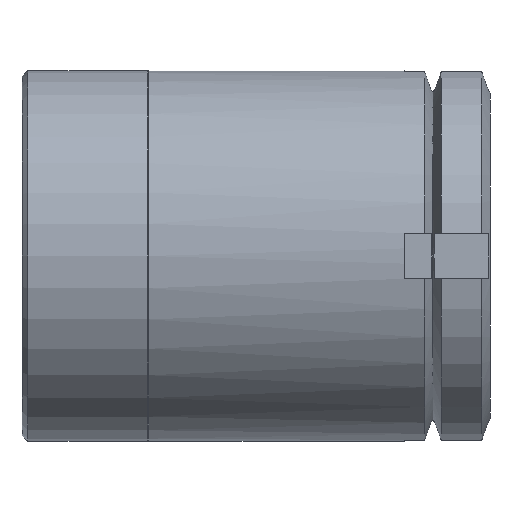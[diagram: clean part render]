
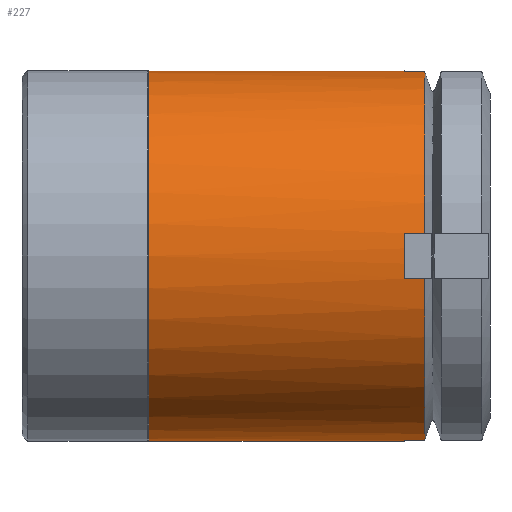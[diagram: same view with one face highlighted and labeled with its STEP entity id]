
A CAD part, front view. The second image highlights one B-rep face of the part: STEP entity #227.
In plain terms, the highlighted cylindrical face has radius 32.5 mm (diameter 65 mm), a full revolution.
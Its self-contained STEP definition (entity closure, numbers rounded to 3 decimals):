
#227 = ADVANCED_FACE( '', ( #342, #343 ), #344, .T. );
#342 = FACE_OUTER_BOUND( '', #527, .T. );
#343 = FACE_OUTER_BOUND( '', #528, .T. );
#344 = CYLINDRICAL_SURFACE( '', #529, 32.5 );
#527 = EDGE_LOOP( '', ( #756 ) );
#528 = EDGE_LOOP( '', ( #757, #758, #759, #760, #761, #762, #763, #764, #765, #766, #767, #768, #769, #770, #771, #772 ) );
#529 = AXIS2_PLACEMENT_3D( '', #773, #774, #775 );
#756 = ORIENTED_EDGE( '', *, *, #1157, .F. );
#757 = ORIENTED_EDGE( '', *, *, #1158, .F. );
#758 = ORIENTED_EDGE( '', *, *, #1159, .T. );
#759 = ORIENTED_EDGE( '', *, *, #1160, .T. );
#760 = ORIENTED_EDGE( '', *, *, #1161, .F. );
#761 = ORIENTED_EDGE( '', *, *, #1162, .F. );
#762 = ORIENTED_EDGE( '', *, *, #1163, .T. );
#763 = ORIENTED_EDGE( '', *, *, #1164, .T. );
#764 = ORIENTED_EDGE( '', *, *, #1165, .F. );
#765 = ORIENTED_EDGE( '', *, *, #1166, .F. );
#766 = ORIENTED_EDGE( '', *, *, #1143, .T. );
#767 = ORIENTED_EDGE( '', *, *, #1167, .T. );
#768 = ORIENTED_EDGE( '', *, *, #1168, .F. );
#769 = ORIENTED_EDGE( '', *, *, #1169, .F. );
#770 = ORIENTED_EDGE( '', *, *, #1170, .T. );
#771 = ORIENTED_EDGE( '', *, *, #1171, .T. );
#772 = ORIENTED_EDGE( '', *, *, #1172, .F. );
#773 = CARTESIAN_POINT( '', ( 0., 9.939, 0. ) );
#774 = DIRECTION( '', ( 0., 1., 0. ) );
#775 = DIRECTION( '', ( 0., 0., -1. ) );
#1143 = EDGE_CURVE( '', #1288, #1286, #1289, .T. );
#1157 = EDGE_CURVE( '', #1315, #1315, #1316, .T. );
#1158 = EDGE_CURVE( '', #1317, #1318, #1319, .T. );
#1159 = EDGE_CURVE( '', #1317, #1320, #1321, .T. );
#1160 = EDGE_CURVE( '', #1320, #1322, #1323, .T. );
#1161 = EDGE_CURVE( '', #1324, #1322, #1325, .T. );
#1162 = EDGE_CURVE( '', #1326, #1324, #1327, .T. );
#1163 = EDGE_CURVE( '', #1326, #1328, #1329, .T. );
#1164 = EDGE_CURVE( '', #1328, #1330, #1331, .T. );
#1165 = EDGE_CURVE( '', #1332, #1330, #1333, .T. );
#1166 = EDGE_CURVE( '', #1288, #1332, #1334, .T. );
#1167 = EDGE_CURVE( '', #1286, #1335, #1336, .T. );
#1168 = EDGE_CURVE( '', #1337, #1335, #1338, .T. );
#1169 = EDGE_CURVE( '', #1339, #1337, #1340, .T. );
#1170 = EDGE_CURVE( '', #1339, #1341, #1342, .T. );
#1171 = EDGE_CURVE( '', #1341, #1343, #1344, .T. );
#1172 = EDGE_CURVE( '', #1318, #1343, #1345, .T. );
#1286 = VERTEX_POINT( '', #1522 );
#1288 = VERTEX_POINT( '', #1530 );
#1289 = LINE( '', #1531, #1532 );
#1315 = VERTEX_POINT( '', #1560 );
#1316 = CIRCLE( '', #1561, 32.5 );
#1317 = VERTEX_POINT( '', #1562 );
#1318 = VERTEX_POINT( '', #1563 );
#1319 = CIRCLE( '', #1564, 32.5 );
#1320 = VERTEX_POINT( '', #1565 );
#1321 = LINE( '', #1566, #1567 );
#1322 = VERTEX_POINT( '', #1568 );
#1323 = CIRCLE( '', #1569, 32.5 );
#1324 = VERTEX_POINT( '', #1570 );
#1325 = LINE( '', #1571, #1572 );
#1326 = VERTEX_POINT( '', #1573 );
#1327 = CIRCLE( '', #1574, 32.5 );
#1328 = VERTEX_POINT( '', #1575 );
#1329 = LINE( '', #1576, #1577 );
#1330 = VERTEX_POINT( '', #1578 );
#1331 = CIRCLE( '', #1579, 32.5 );
#1332 = VERTEX_POINT( '', #1580 );
#1333 = LINE( '', #1581, #1582 );
#1334 = CIRCLE( '', #1583, 32.5 );
#1335 = VERTEX_POINT( '', #1584 );
#1336 = CIRCLE( '', #1585, 32.5 );
#1337 = VERTEX_POINT( '', #1586 );
#1338 = LINE( '', #1587, #1588 );
#1339 = VERTEX_POINT( '', #1589 );
#1340 = CIRCLE( '', #1590, 32.5 );
#1341 = VERTEX_POINT( '', #1591 );
#1342 = LINE( '', #1592, #1593 );
#1343 = VERTEX_POINT( '', #1594 );
#1344 = CIRCLE( '', #1595, 32.5 );
#1345 = LINE( '', #1596, #1597 );
#1522 = CARTESIAN_POINT( '', ( -32.253, 70.54, -4. ) );
#1530 = CARTESIAN_POINT( '', ( -32.253, 67., -4. ) );
#1531 = CARTESIAN_POINT( '', ( -32.253, 67., -4. ) );
#1532 = VECTOR( '', #2014, 1000. );
#1560 = CARTESIAN_POINT( '', ( 0., 22.213, -32.5 ) );
#1561 = AXIS2_PLACEMENT_3D( '', #2050, #2051, #2052 );
#1562 = CARTESIAN_POINT( '', ( 32.253, 67., 4. ) );
#1563 = CARTESIAN_POINT( '', ( 32.253, 67., -4. ) );
#1564 = AXIS2_PLACEMENT_3D( '', #2053, #2054, #2055 );
#1565 = CARTESIAN_POINT( '', ( 32.253, 70.54, 4. ) );
#1566 = CARTESIAN_POINT( '', ( 32.253, 67., 4. ) );
#1567 = VECTOR( '', #2056, 1000. );
#1568 = CARTESIAN_POINT( '', ( 4., 70.54, 32.253 ) );
#1569 = AXIS2_PLACEMENT_3D( '', #2057, #2058, #2059 );
#1570 = CARTESIAN_POINT( '', ( 4., 67., 32.253 ) );
#1571 = CARTESIAN_POINT( '', ( 4., 67., 32.253 ) );
#1572 = VECTOR( '', #2060, 1000. );
#1573 = CARTESIAN_POINT( '', ( -4., 67., 32.253 ) );
#1574 = AXIS2_PLACEMENT_3D( '', #2061, #2062, #2063 );
#1575 = CARTESIAN_POINT( '', ( -4., 70.54, 32.253 ) );
#1576 = CARTESIAN_POINT( '', ( -4., 67., 32.253 ) );
#1577 = VECTOR( '', #2064, 1000. );
#1578 = CARTESIAN_POINT( '', ( -32.253, 70.54, 4. ) );
#1579 = AXIS2_PLACEMENT_3D( '', #2065, #2066, #2067 );
#1580 = CARTESIAN_POINT( '', ( -32.253, 67., 4. ) );
#1581 = CARTESIAN_POINT( '', ( -32.253, 67., 4. ) );
#1582 = VECTOR( '', #2068, 1000. );
#1583 = AXIS2_PLACEMENT_3D( '', #2069, #2070, #2071 );
#1584 = CARTESIAN_POINT( '', ( -4., 70.54, -32.253 ) );
#1585 = AXIS2_PLACEMENT_3D( '', #2072, #2073, #2074 );
#1586 = CARTESIAN_POINT( '', ( -4., 67., -32.253 ) );
#1587 = CARTESIAN_POINT( '', ( -4., 67., -32.253 ) );
#1588 = VECTOR( '', #2075, 1000. );
#1589 = CARTESIAN_POINT( '', ( 4., 67., -32.253 ) );
#1590 = AXIS2_PLACEMENT_3D( '', #2076, #2077, #2078 );
#1591 = CARTESIAN_POINT( '', ( 4., 70.54, -32.253 ) );
#1592 = CARTESIAN_POINT( '', ( 4., 67., -32.253 ) );
#1593 = VECTOR( '', #2079, 1000. );
#1594 = CARTESIAN_POINT( '', ( 32.253, 70.54, -4. ) );
#1595 = AXIS2_PLACEMENT_3D( '', #2080, #2081, #2082 );
#1596 = CARTESIAN_POINT( '', ( 32.253, 67., -4. ) );
#1597 = VECTOR( '', #2083, 1000. );
#2014 = DIRECTION( '', ( 0., 1., 0. ) );
#2050 = CARTESIAN_POINT( '', ( 0., 22.213, 0. ) );
#2051 = DIRECTION( '', ( 0., -1., 0. ) );
#2052 = DIRECTION( '', ( 0., 0., -1. ) );
#2053 = CARTESIAN_POINT( '', ( 0., 67., 0. ) );
#2054 = DIRECTION( '', ( 0., 1., 0. ) );
#2055 = DIRECTION( '', ( 0., 0., 1. ) );
#2056 = DIRECTION( '', ( 0., 1., 0. ) );
#2057 = CARTESIAN_POINT( '', ( 0., 70.54, 0. ) );
#2058 = DIRECTION( '', ( 0., -1., 0. ) );
#2059 = DIRECTION( '', ( 0., 0., -1. ) );
#2060 = DIRECTION( '', ( 0., 1., 0. ) );
#2061 = CARTESIAN_POINT( '', ( 0., 67., 0. ) );
#2062 = DIRECTION( '', ( 0., 1., 0. ) );
#2063 = DIRECTION( '', ( 0., 0., 1. ) );
#2064 = DIRECTION( '', ( 0., 1., 0. ) );
#2065 = CARTESIAN_POINT( '', ( 0., 70.54, 0. ) );
#2066 = DIRECTION( '', ( 0., -1., 0. ) );
#2067 = DIRECTION( '', ( 0., 0., -1. ) );
#2068 = DIRECTION( '', ( 0., 1., 0. ) );
#2069 = CARTESIAN_POINT( '', ( 0., 67., 0. ) );
#2070 = DIRECTION( '', ( 0., 1., 0. ) );
#2071 = DIRECTION( '', ( 0., 0., 1. ) );
#2072 = CARTESIAN_POINT( '', ( 0., 70.54, 0. ) );
#2073 = DIRECTION( '', ( 0., -1., 0. ) );
#2074 = DIRECTION( '', ( 0., 0., -1. ) );
#2075 = DIRECTION( '', ( 0., 1., 0. ) );
#2076 = CARTESIAN_POINT( '', ( 0., 67., 0. ) );
#2077 = DIRECTION( '', ( 0., 1., 0. ) );
#2078 = DIRECTION( '', ( 0., 0., 1. ) );
#2079 = DIRECTION( '', ( 0., 1., 0. ) );
#2080 = CARTESIAN_POINT( '', ( 0., 70.54, 0. ) );
#2081 = DIRECTION( '', ( 0., -1., 0. ) );
#2082 = DIRECTION( '', ( 0., 0., -1. ) );
#2083 = DIRECTION( '', ( 0., 1., 0. ) );
